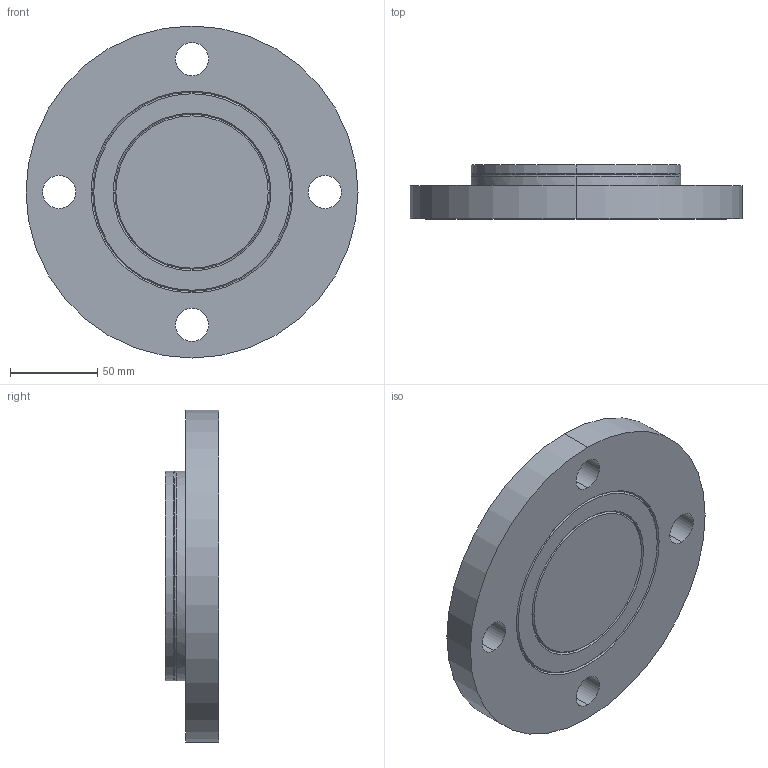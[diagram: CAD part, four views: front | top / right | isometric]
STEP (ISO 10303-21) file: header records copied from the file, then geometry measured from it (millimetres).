
FILE_DESCRIPTION (( 'STEP AP203' ), '1' );
FILE_NAME ('18017001.STEP', '2013-10-25T13:09:43', ( 'eb' ), ( '' ), 'SwSTEP 2.0', 'SolidWorks 2013', '' );
FILE_SCHEMA (( 'CONFIG_CONTROL_DESIGN' ));
Length unit declared in the file: inch
Products named in the file (1): 18017001
Bounding box: 190.5 x 30.91 x 190.5 mm (x, y, z)
Volume: 655843.3 mm3; surface area: 75601 mm2
Topology: 1 solids, 1 shells, 31 faces, 72 edges, 46 vertices
Faces by surface type: cylinder 14, cone 10, plane 5, bspline 2
Entity records: 1371 total; most frequent: CARTESIAN_POINT 554, DIRECTION 164, ORIENTED_EDGE 144, EDGE_CURVE 72, AXIS2_PLACEMENT_3D 70, VERTEX_POINT 46, EDGE_LOOP 42, CIRCLE 40
